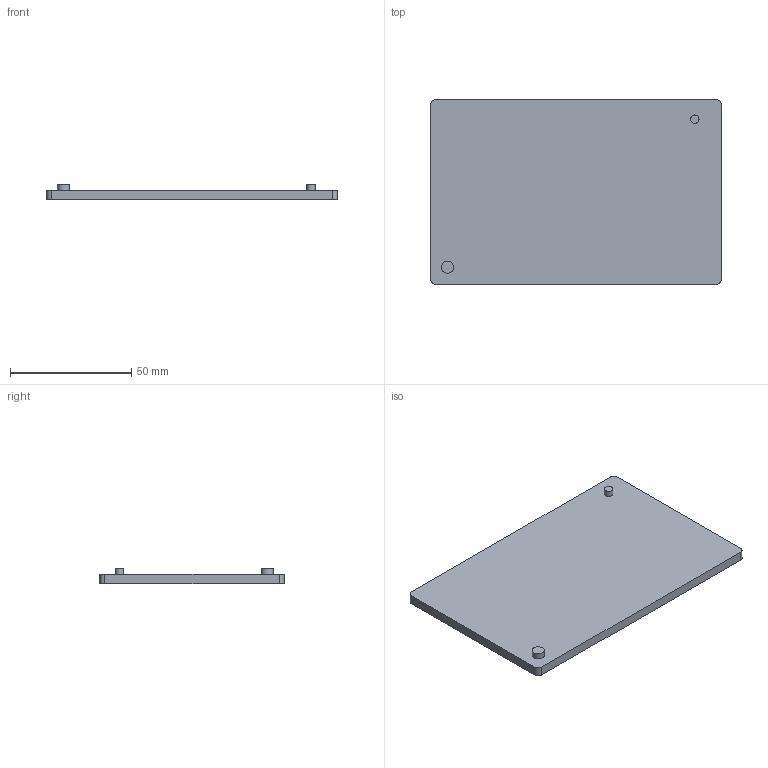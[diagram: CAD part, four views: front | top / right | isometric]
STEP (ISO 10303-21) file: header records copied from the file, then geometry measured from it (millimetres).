
FILE_DESCRIPTION(('Open CASCADE Model'),'2;1');
FILE_NAME('Open CASCADE Shape Model','2026-11-18T17:24:18',('Author'),( 'Open CASCADE'),'Open CASCADE STEP processor 7.8','Open CASCADE 7.8' ,'Unknown');
FILE_SCHEMA(('AUTOMOTIVE_DESIGN { 1 0 10303 214 1 1 1 1 }'));
Length unit declared in the file: millimetre
Products named in the file (1): Open CASCADE STEP translator 7.8 1
Bounding box: 120 x 76 x 6.5 mm (x, y, z)
Volume: 36539.4 mm3; surface area: 19854.2 mm2
Topology: 1 solids, 1 shells, 14 faces, 30 edges, 20 vertices
Faces by surface type: plane 8, cylinder 6
Full cylindrical faces by diameter (mm): 3.5 x1, 5 x1
Entity records: 798 total; most frequent: CARTESIAN_POINT 149, DIRECTION 128, LINE 66, VECTOR 66, ORIENTED_EDGE 60, PCURVE 60, DEFINITIONAL_REPRESENTATION 60, EDGE_CURVE 30
